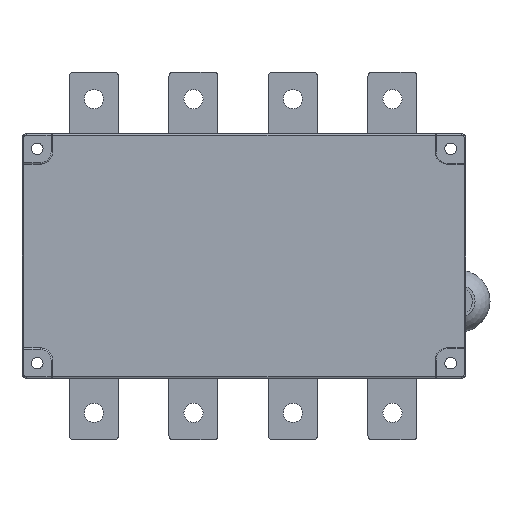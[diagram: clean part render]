
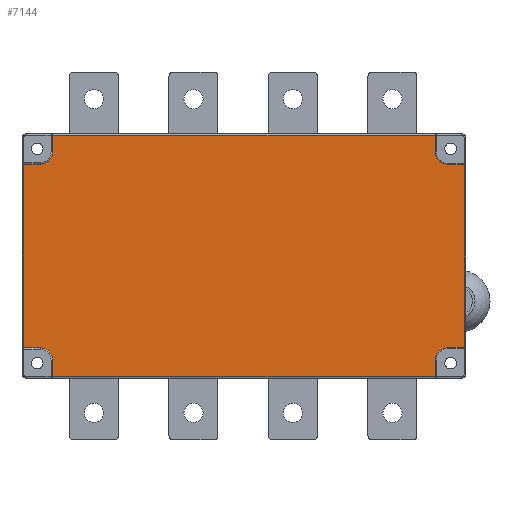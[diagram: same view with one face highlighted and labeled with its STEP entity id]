
A CAD part, front view. The second image highlights one B-rep face of the part: STEP entity #7144.
In plain terms, the highlighted planar face has unit normal (0, -1, 0).
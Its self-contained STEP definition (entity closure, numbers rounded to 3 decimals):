
#3713=DIRECTION('',(-1.,0.,0.));
#3714=VECTOR('',#3713,11.);
#3715=CARTESIAN_POINT('',(-163.,2.,60.));
#3716=LINE('',#3715,#3714);
#3738=DIRECTION('',(0.,0.,-1.));
#3739=VECTOR('',#3738,120.);
#3740=CARTESIAN_POINT('',(-174.,2.,60.));
#3741=LINE('',#3740,#3739);
#3742=CARTESIAN_POINT('',(-163.,2.,68.));
#3743=DIRECTION('',(0.,-1.,0.));
#3744=DIRECTION('',(0.,0.,-1.));
#3745=AXIS2_PLACEMENT_3D('',#3742,#3743,#3744);
#3747=DIRECTION('',(0.,0.,1.));
#3748=VECTOR('',#3747,11.);
#3749=CARTESIAN_POINT('',(-155.,2.,68.));
#3750=LINE('',#3749,#3748);
#3751=DIRECTION('',(0.,0.,-1.));
#3752=VECTOR('',#3751,11.);
#3753=CARTESIAN_POINT('',(95.,2.,79.));
#3754=LINE('',#3753,#3752);
#3755=CARTESIAN_POINT('',(103.,2.,68.));
#3756=DIRECTION('',(0.,-1.,0.));
#3757=DIRECTION('',(-1.,0.,0.));
#3758=AXIS2_PLACEMENT_3D('',#3755,#3756,#3757);
#3760=DIRECTION('',(1.,0.,0.));
#3761=VECTOR('',#3760,11.);
#3762=CARTESIAN_POINT('',(103.,2.,60.));
#3763=LINE('',#3762,#3761);
#3764=DIRECTION('',(-1.,0.,0.));
#3765=VECTOR('',#3764,11.);
#3766=CARTESIAN_POINT('',(114.,2.,-60.));
#3767=LINE('',#3766,#3765);
#3768=CARTESIAN_POINT('',(103.,2.,-68.));
#3769=DIRECTION('',(0.,-1.,0.));
#3770=DIRECTION('',(0.,0.,1.));
#3771=AXIS2_PLACEMENT_3D('',#3768,#3769,#3770);
#3773=DIRECTION('',(0.,0.,-1.));
#3774=VECTOR('',#3773,11.);
#3775=CARTESIAN_POINT('',(95.,2.,-68.));
#3776=LINE('',#3775,#3774);
#3777=CARTESIAN_POINT('',(-163.,2.,-68.));
#3778=DIRECTION('',(0.,-1.,0.));
#3779=DIRECTION('',(1.,0.,0.));
#3780=AXIS2_PLACEMENT_3D('',#3777,#3778,#3779);
#3782=DIRECTION('',(-1.,0.,0.));
#3783=VECTOR('',#3782,11.);
#3784=CARTESIAN_POINT('',(-163.,2.,-60.));
#3785=LINE('',#3784,#3783);
#3786=DIRECTION('',(-1.,0.,0.));
#3787=VECTOR('',#3786,250.);
#3788=CARTESIAN_POINT('',(95.,2.,79.));
#3789=LINE('',#3788,#3787);
#4227=DIRECTION('',(1.,0.,0.));
#4228=VECTOR('',#4227,250.);
#4229=CARTESIAN_POINT('',(-155.,2.,-79.));
#4230=LINE('',#4229,#4228);
#4354=DIRECTION('',(0.,0.,-1.));
#4355=VECTOR('',#4354,11.);
#4356=CARTESIAN_POINT('',(-155.,2.,-68.));
#4357=LINE('',#4356,#4355);
#4436=DIRECTION('',(0.,0.,1.));
#4437=VECTOR('',#4436,120.);
#4438=CARTESIAN_POINT('',(114.,2.,-60.));
#4439=LINE('',#4438,#4437);
#5469=CARTESIAN_POINT('',(-155.,2.,79.));
#5470=VERTEX_POINT('',#5469);
#5472=CARTESIAN_POINT('',(-155.,2.,68.));
#5474=VERTEX_POINT('',#5472);
#5475=CARTESIAN_POINT('',(-163.,2.,60.));
#5477=VERTEX_POINT('',#5475);
#5480=CARTESIAN_POINT('',(-174.,2.,60.));
#5482=VERTEX_POINT('',#5480);
#5483=CARTESIAN_POINT('',(-174.,2.,-60.));
#5484=VERTEX_POINT('',#5483);
#5485=CARTESIAN_POINT('',(95.,2.,79.));
#5486=VERTEX_POINT('',#5485);
#5487=CARTESIAN_POINT('',(95.,2.,68.));
#5488=VERTEX_POINT('',#5487);
#5489=CARTESIAN_POINT('',(103.,2.,60.));
#5490=VERTEX_POINT('',#5489);
#5491=CARTESIAN_POINT('',(114.,2.,60.));
#5492=VERTEX_POINT('',#5491);
#5493=CARTESIAN_POINT('',(114.,2.,-60.));
#5494=VERTEX_POINT('',#5493);
#5495=CARTESIAN_POINT('',(103.,2.,-60.));
#5496=VERTEX_POINT('',#5495);
#5497=CARTESIAN_POINT('',(95.,2.,-68.));
#5498=VERTEX_POINT('',#5497);
#5499=CARTESIAN_POINT('',(95.,2.,-79.));
#5500=VERTEX_POINT('',#5499);
#5501=CARTESIAN_POINT('',(-155.,2.,-79.));
#5502=VERTEX_POINT('',#5501);
#5503=CARTESIAN_POINT('',(-155.,2.,-68.));
#5504=VERTEX_POINT('',#5503);
#5505=CARTESIAN_POINT('',(-163.,2.,-60.));
#5506=VERTEX_POINT('',#5505);
#7109=CARTESIAN_POINT('',(0.,2.,0.));
#7110=DIRECTION('',(0.,-1.,0.));
#7111=DIRECTION('',(-1.,0.,0.));
#7112=AXIS2_PLACEMENT_3D('',#7109,#7110,#7111);
#7113=PLANE('',#7112);
#7114=ORIENTED_EDGE('',*,*,#7076,.F.);
#7115=ORIENTED_EDGE('',*,*,#7061,.T.);
#7116=ORIENTED_EDGE('',*,*,#7046,.T.);
#7118=ORIENTED_EDGE('',*,*,#7117,.F.);
#7120=ORIENTED_EDGE('',*,*,#7119,.T.);
#7122=ORIENTED_EDGE('',*,*,#7121,.T.);
#7124=ORIENTED_EDGE('',*,*,#7123,.T.);
#7126=ORIENTED_EDGE('',*,*,#7125,.F.);
#7128=ORIENTED_EDGE('',*,*,#7127,.T.);
#7130=ORIENTED_EDGE('',*,*,#7129,.T.);
#7132=ORIENTED_EDGE('',*,*,#7131,.T.);
#7134=ORIENTED_EDGE('',*,*,#7133,.F.);
#7136=ORIENTED_EDGE('',*,*,#7135,.F.);
#7138=ORIENTED_EDGE('',*,*,#7137,.T.);
#7140=ORIENTED_EDGE('',*,*,#7139,.T.);
#7141=ORIENTED_EDGE('',*,*,#7102,.F.);
#7142=EDGE_LOOP('',(#7114,#7115,#7116,#7118,#7120,#7122,#7124,#7126,#7128,#7130,
#7132,#7134,#7136,#7138,#7140,#7141));
#7143=FACE_OUTER_BOUND('',#7142,.F.);
#3746=CIRCLE('',#3745,8.);
#3759=CIRCLE('',#3758,8.);
#3772=CIRCLE('',#3771,8.);
#3781=CIRCLE('',#3780,8.);
#7046=EDGE_CURVE('',#5474,#5470,#3750,.T.);
#7061=EDGE_CURVE('',#5477,#5474,#3746,.T.);
#7076=EDGE_CURVE('',#5477,#5482,#3716,.T.);
#7102=EDGE_CURVE('',#5482,#5484,#3741,.T.);
#7117=EDGE_CURVE('',#5486,#5470,#3789,.T.);
#7119=EDGE_CURVE('',#5486,#5488,#3754,.T.);
#7121=EDGE_CURVE('',#5488,#5490,#3759,.T.);
#7123=EDGE_CURVE('',#5490,#5492,#3763,.T.);
#7125=EDGE_CURVE('',#5494,#5492,#4439,.T.);
#7127=EDGE_CURVE('',#5494,#5496,#3767,.T.);
#7129=EDGE_CURVE('',#5496,#5498,#3772,.T.);
#7131=EDGE_CURVE('',#5498,#5500,#3776,.T.);
#7133=EDGE_CURVE('',#5502,#5500,#4230,.T.);
#7135=EDGE_CURVE('',#5504,#5502,#4357,.T.);
#7137=EDGE_CURVE('',#5504,#5506,#3781,.T.);
#7139=EDGE_CURVE('',#5506,#5484,#3785,.T.);
#7144=ADVANCED_FACE('',(#7143),#7113,.T.);
